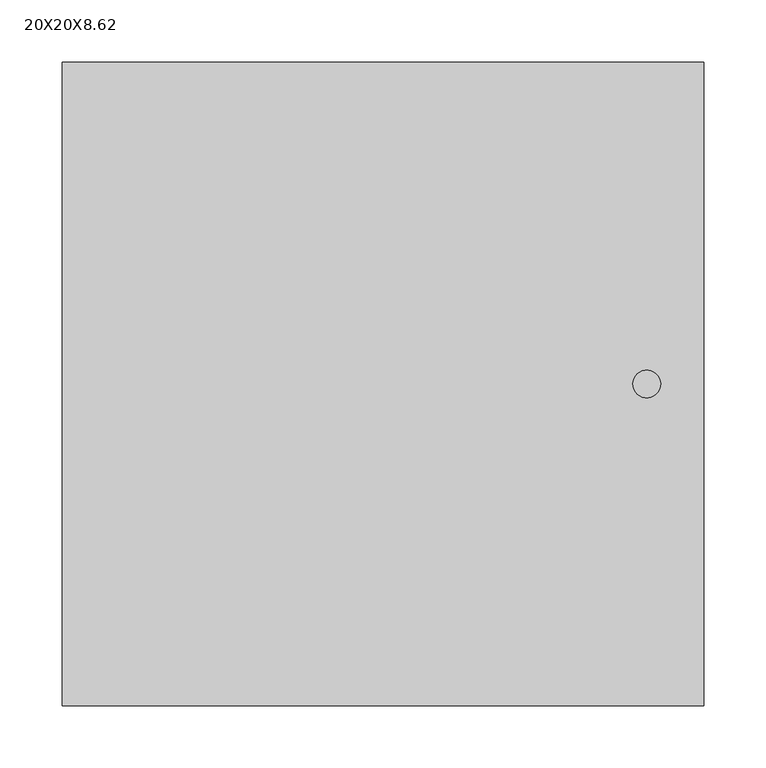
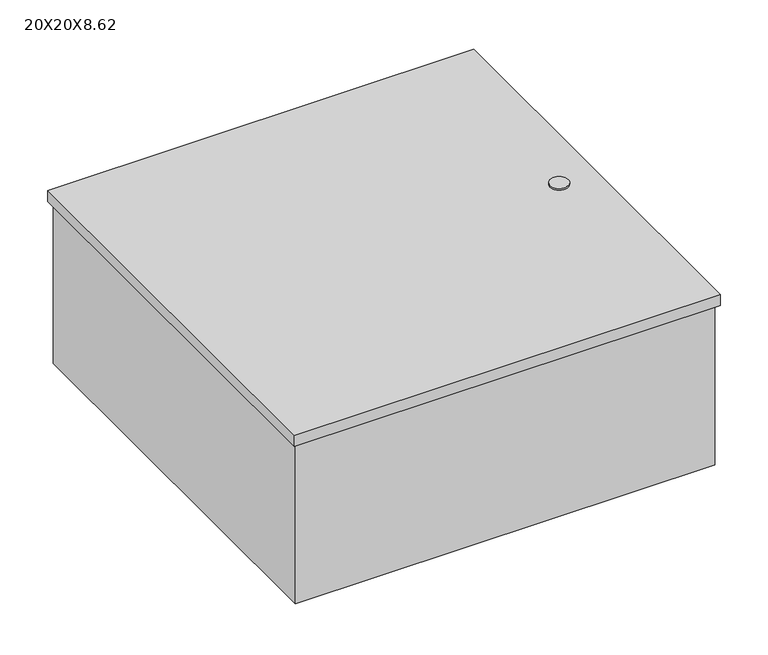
"""IFC4 building model written with IfcOpenShell, lengths in millimetres: proxy geometry, Enclosure-Hinged_Cover-Pentair-Type_1-Medium : 20X20X8.62."""

from ifc_helpers import new_model, si_unit, point, frame, frame_2d, origin, origin_with_axes, place, context, project, spatial, polyline, circle_curve, trimmed, segment, composite_curve, outline, extrude, source, transform, mapped, element, save


def proxy_20x20x8_62_91e8bdcb(model_context):
    return source(origin(), model_context, "Body", "SweptSolid", [
        extrude(outline(polyline([(254.0, -254.0), (-254.0, -254.0), (-254.0, 254.0), (254.0, 254.0), (254.0, -254.0)])), origin_with_axes(), (0.0, 0.0, 1.0), 206.3115),
        extrude(outline(polyline([(258.1671875, -258.9609375), (-258.1671875, -258.9609375), (-258.1671875, 258.9609375), (258.1671875, 258.9609375), (258.1671875, -258.9609375)])), frame((0.0, 0.0, 206.3115), z_axis=(0.0, 0.0, 1.0), x_axis=(1.0, 0.0, 0.0)), (0.0, 0.0, 1.0), 14.224),
        extrude(outline(composite_curve([segment(trimmed(circle_curve(frame_2d((212.1931875, 0.0)), 11.1125), [point((223.3056875, 0.0))], [point((201.0806875, 0.0))], False, "CARTESIAN"), True, "CONTINUOUS"), segment(trimmed(circle_curve(frame_2d((212.1931875, 0.0)), 11.1125), [point((201.0806875, 0.0))], [point((223.3056875, 0.0))], False, "CARTESIAN"), True, "CONTINUOUS")], self_intersect=False)), frame((0.0, 0.0, 220.5355), z_axis=(0.0, 0.0, 1.0), x_axis=(1.0, 0.0, 0.0)), (0.0, 0.0, 1.0), 2.38125),
    ])


if __name__ == "__main__":
    model = new_model("IFC4")
    model_context = context("Model", 3, world=origin())
    ifc_project = project(units=[si_unit("LENGTHUNIT", "METRE", prefix="MILLI")], contexts=[model_context])
    site = spatial("IfcSite", under=ifc_project)
    building = spatial("IfcBuilding", under=site)
    placement = place(None, origin())
    proxy_20x20x8_62_shape = proxy_20x20x8_62_91e8bdcb(model_context)
    element("IfcBuildingElementProxy", 1, Name="Enclosure-Hinged_Cover-Pentair-Type_1-Medium : 20X20X8.62", ObjectType="Enclosure-Hinged_Cover-Pentair-Type_1-Medium : 20X20X8.62", at=placement, inside=building, context=model_context, shape_type="MappedRepresentation", body=[
        mapped(proxy_20x20x8_62_shape, transform((0.0, 0.0, 0.0), x_axis=(1.0, 0.0, 0.0), y_axis=(0.0, 1.0, 0.0), z_axis=(0.0, 0.0, 1.0))),
    ])
    save(model, "model.ifc")
